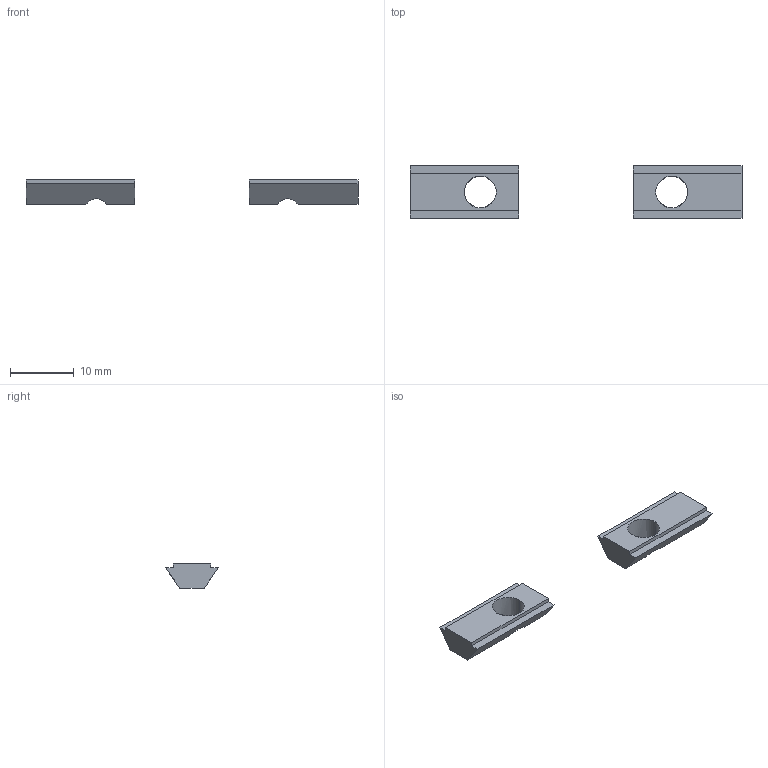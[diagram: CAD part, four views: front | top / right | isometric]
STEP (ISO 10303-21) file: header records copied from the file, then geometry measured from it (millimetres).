
FILE_DESCRIPTION(/* description */ (''),/* implementation_level */ '2;1');
FILE_NAME(/* name */ '8.x-drive#8.1#HNTPZ5-5',/* time_stamp */ '2014-12-01T20:17:52+01:00',/* author */ (''),/* organization */ (''),/* preprocessor_version */ 'ST-DEVELOPER v14',/* originating_system */ '',/* authorisation */ '');
FILE_SCHEMA (('AUTOMOTIVE_DESIGN'));
Length unit declared in the file: millimetre
Products named in the file (2): Document; nut tslot, post, M5
Assembly tree (1 placements, depth 2):
  Document
    nut tslot, post, M5
Bounding box: 52 x 8.3 x 3.8 mm (x, y, z)
Volume: 630.1 mm3; surface area: 839.1 mm2
Topology: 2 solids, 2 shells, 26 faces, 72 edges, 48 vertices
Faces by surface type: plane 22, bspline 4
Entity records: 1953 total; most frequent: CARTESIAN_POINT 916, B_SPLINE_CURVE_WITH_KNOTS 200, ORIENTED_EDGE 144, PCURVE 144, DEFINITIONAL_REPRESENTATION 144, SURFACE_CURVE 72, EDGE_CURVE 72, VERTEX_POINT 48
